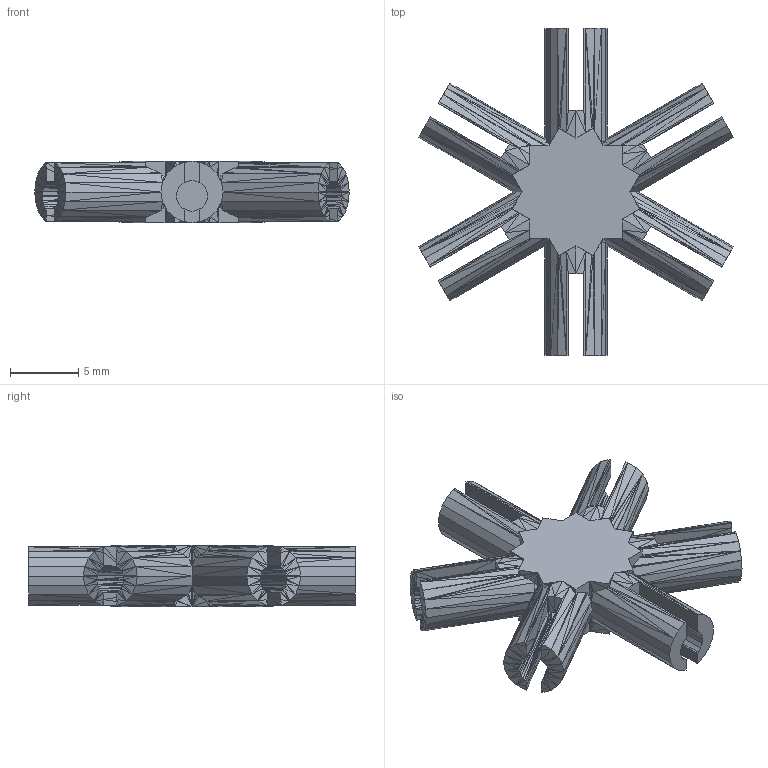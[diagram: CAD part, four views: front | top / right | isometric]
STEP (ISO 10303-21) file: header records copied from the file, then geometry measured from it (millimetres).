
FILE_DESCRIPTION(('Open CASCADE Model'),'2;1');
FILE_NAME('Open CASCADE Shape Model','2026-10-26T18:28:20',('Author'),( 'Open CASCADE'),'Open CASCADE STEP processor 7.9','Open CASCADE 7.9' ,'Unknown');
FILE_SCHEMA(('AUTOMOTIVE_DESIGN { 1 0 10303 214 1 1 1 1 }'));
Products named in the file (1): Open CASCADE STEP translator 7.9 1
Bounding box: 23.03 x 23.95 x 4.5 mm (x, y, z)
Volume: 708.6 mm3; surface area: 1285.9 mm2
Topology: 1 solids, 1 shells, 2044 faces, 3242 edges, 1200 vertices
Faces by surface type: plane 2044
Entity records: 83610 total; most frequent: DIRECTION 13816, CARTESIAN_POINT 12971, LINE 9726, VECTOR 9726, ORIENTED_EDGE 6484, PCURVE 6484, DEFINITIONAL_REPRESENTATION 6484, EDGE_CURVE 3242
